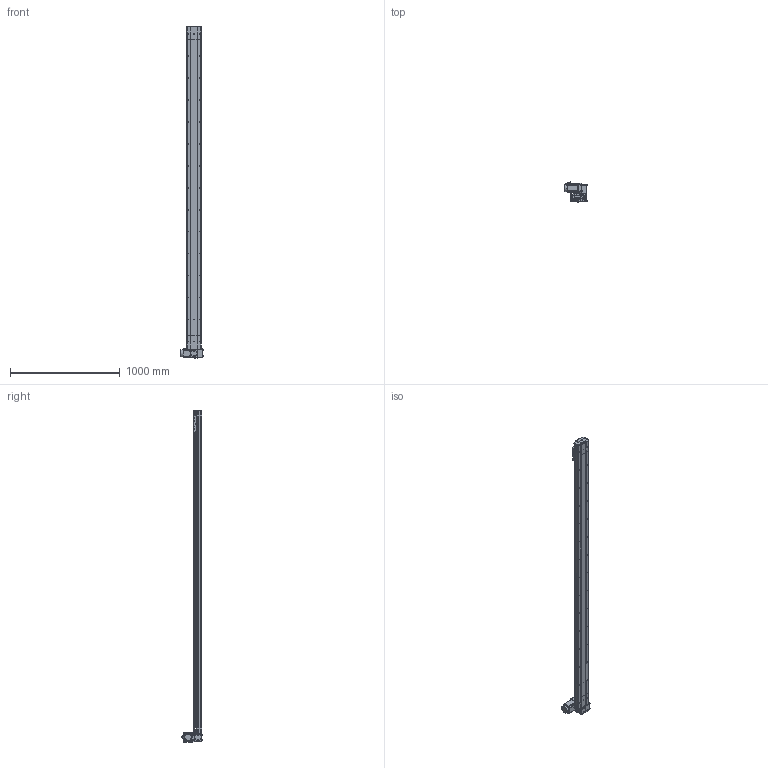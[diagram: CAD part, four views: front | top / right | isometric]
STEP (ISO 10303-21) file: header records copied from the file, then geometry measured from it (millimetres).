
FILE_DESCRIPTION (( 'STEP AP214' ), '1' );
FILE_NAME ('D14 TBH LT S2700.STEP', '2010-06-29T14:37:50', ( 'Conseil Régional Haute-Normandie' ), ( 'Conseil Régional Haute-Normandie' ), 'SwSTEP 2.0', 'SolidWorks 2010', '' );
FILE_SCHEMA (( 'AUTOMOTIVE_DESIGN' ));
Length unit declared in the file: millimetre
Products named in the file (39): poulie head_Default; D14 couroie L2700_Default; vis M5 L16_Default; Rail + couroie D14 Course 2700 ; D14 TBH LT S2700; tete d''axe haut D14; plaque de  bout tail D14_Default; corpl tail D14_Default; corpl 2700_Default; couvercle D14 head_Default; couvercle D14 course L2700_Default; Tail D14B_Default; Arbre+rail head D14; plaque de  bout head D14 LT_Default; corp head D14_Default; D14 TB H LT_Default; Arbre+rail tail D14; vis M5 L8 90°_Default; couroie 2_Default; Couroie_Default; couvercle D14_Default; poulie tail_Default; vis M5 L12_Default; guide D14; Vis M5 L16-2_Default; vis M5 L5_Default; renvoi LH_Default; Cache arbre_Default; Cache_Default; avant 90BLDC100A-640; Plaque racord D14_Default; Conecteur_Default; Chariot D14; chariot D14B_Default; corps 90BLDC100A-640; Conecteur2_Default; codeur 90BLDC100-640; Moteur motionking 90BLDC100A-640; Cvis M5 L70_Default
Assembly tree (68 placements, depth 4):
  D14 TBH LT S2700
    Tail D14B_Default
      vis M5 L16_Default  x2
      vis M5 L8 90°_Default  x2
      vis M5 L12_Default  x4
      plaque de  bout tail D14_Default
      Couroie_Default
      poulie tail_Default
      corpl tail D14_Default
      Arbre+rail tail D14
      tete d''axe haut D14
      couvercle D14_Default
    D14 couroie L2700_Default
      corpl 2700_Default
      couvercle D14 course L2700_Default
      Rail + couroie D14 Course 2700 
    D14 TB H LT_Default
      vis M5 L12_Default  x12
      Vis M5 L16-2_Default  x4
      plaque de  bout head D14 LT_Default
      Cvis M5 L70_Default  x4
      couroie 2_Default
      poulie head_Default
      couvercle D14 head_Default
      corp head D14_Default
      Moteur motionking 90BLDC100A-640
        codeur 90BLDC100-640
        avant 90BLDC100A-640
        corps 90BLDC100A-640
        Conecteur_Default
        Conecteur2_Default
      Cache_Default  x2
      Cache arbre_Default
      renvoi LH_Default
      vis M5 L5_Default  x2
      Arbre+rail head D14
      Plaque racord D14_Default
    chariot D14B_Default
      vis M5 L12_Default  x4
      guide D14  x2
      Chariot D14
Bounding box: 207.2 x 189.1 x 3025.75 mm (x, y, z)
Volume: 11251137.7 mm3; surface area: 4082905.9 mm2
Topology: 92 solids, 92 shells, 2741 faces, 6683 edges, 4314 vertices
Faces by surface type: plane 1617, cylinder 811, bspline 136, torus 89, cone 84, sphere 4
Entity records: 82448 total; most frequent: CARTESIAN_POINT 24077, ORIENTED_EDGE 10226, DIRECTION 10140, EDGE_CURVE 5113, AXIS2_PLACEMENT_3D 3391, VERTEX_POINT 3364, LINE 3358, VECTOR 3358
